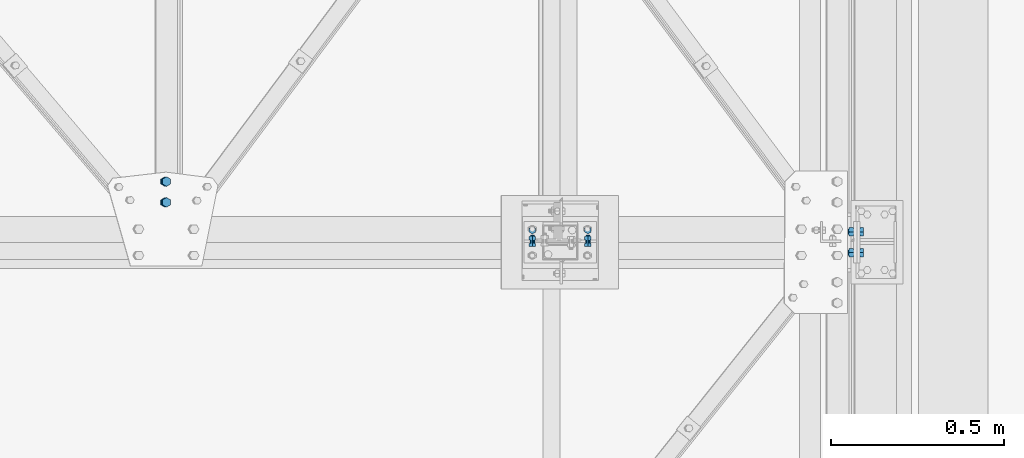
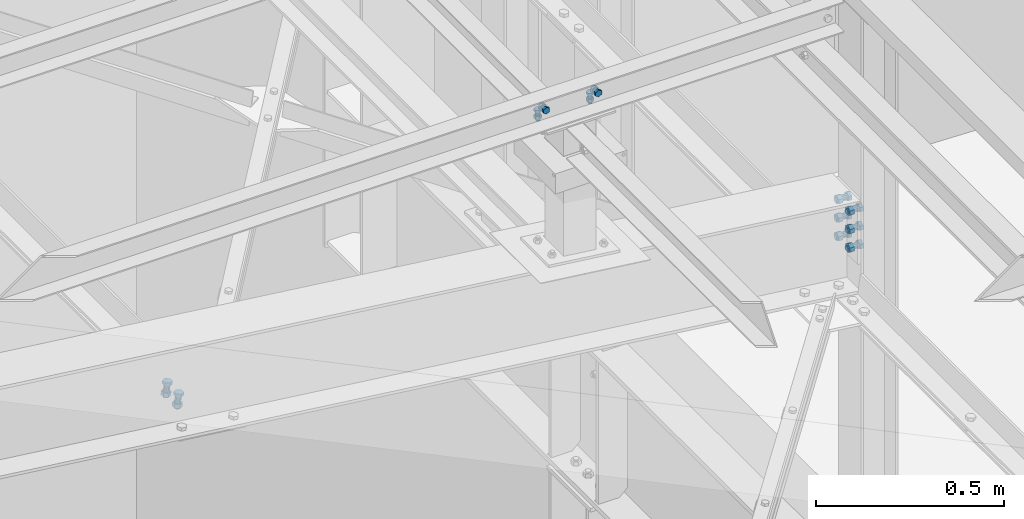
# One storey, part 381 of 3134: 4 mechanical fasteners, 3 elements without a shape of their own.
"""IFC2X3 building model written with IfcOpenShell, lengths in millimetres."""

from ifc_helpers import new_model, si_unit, frame, origin_with_axes, place, context, subcontext, project, spatial, faceted_brep, source, transform, mapped, material, type_object, element, aggregate, save


model = new_model("IFC2X3")

# Units and contexts
model_context = context("Model", 3, precision=1e-05, world=origin_with_axes())
body_context = subcontext(model_context, "Body", "Model", "MODEL_VIEW")
ifc_project = project(units=[si_unit("LENGTHUNIT", "METRE", prefix="MILLI"), si_unit("AREAUNIT", "SQUARE_METRE"), si_unit("VOLUMEUNIT", "CUBIC_METRE"), si_unit("MASSUNIT", "GRAM", prefix="KILO"), si_unit("TIMEUNIT", "SECOND"), si_unit("PLANEANGLEUNIT", "RADIAN"), si_unit("SOLIDANGLEUNIT", "STERADIAN"), si_unit("THERMODYNAMICTEMPERATUREUNIT", "DEGREE_CELSIUS"), si_unit("LUMINOUSINTENSITYUNIT", "LUMEN")], contexts=[model_context])

# Site, building, storey
site_placement = place(None, origin_with_axes())
site = spatial("IfcSite", under=ifc_project, at=site_placement, CompositionType="ELEMENT")
building_placement = place(site_placement, origin_with_axes())
building = spatial("IfcBuilding", under=site, at=building_placement, Name="Undefined", CompositionType="ELEMENT")
storey_placement = place(building_placement, origin_with_axes())
storey = spatial("IfcBuildingStorey", under=building, at=storey_placement, Name="Undefined", CompositionType="ELEMENT", Elevation=0.0)

# Assembly, mechanical fasteners
assembly_1_placement = place(storey_placement, origin_with_axes())
assembly_1 = element("IfcElementAssembly", 1, at=assembly_1_placement, inside=storey, AssemblyPlace="NOTDEFINED", PredefinedType="RIGID_FRAME")
ifc_material = material(Name="8.8")
mechanical_fastener_type = type_object("IfcMechanicalFastenerType", Name="Bolt assembly")
shared_shape_1 = source(origin_with_axes(), body_context, "Body", "Brep", [
    faceted_brep([(10.9696551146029, -14.0, 0.0), (5.48482755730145, -14.0, 9.5), (-5.48482755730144, -14.0, 9.5), (-10.9696551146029, -14.0, 1.34339530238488e-15), (-5.48482755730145, -14.0, -9.5), (5.48482755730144, -14.0, -9.50000000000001), (5.48482755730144, -6.0, -9.50000000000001), (-5.48482755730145, -6.0, -9.5), (-10.9696551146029, -6.0, 1.34339530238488e-15), (-5.48482755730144, -6.0, 9.5), (5.48482755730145, -6.0, 9.5), (10.9696551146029, -6.0, 0.0), (6.0, -6.0, 0.0), (5.19615242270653, -6.0, 3.00000000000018), (2.99999999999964, -6.0, 5.19615242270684), (-6.21801588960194e-13, -6.0, 6.0), (-3.00000000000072, -6.0, 5.19615242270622), (-5.19615242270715, -6.0, 2.9999999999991), (-6.0, -6.0, -1.24360317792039e-12), (-5.19615242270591, -6.0, -3.00000000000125), (-2.99999999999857, -6.0, -5.19615242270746), (1.85874342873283e-12, -6.0, -6.0), (3.00000000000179, -6.0, -5.1961524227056), (5.19615242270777, -6.0, -2.99999999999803), (5.19615242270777, 24.0, -2.99999999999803), (3.00000000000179, 24.0, -5.1961524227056), (1.85874342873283e-12, 24.0, -6.0), (-2.99999999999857, 24.0, -5.19615242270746), (-5.19615242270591, 24.0, -3.00000000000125), (-6.0, 24.0, -1.24360317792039e-12), (-5.19615242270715, 24.0, 2.9999999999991), (-3.00000000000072, 24.0, 5.19615242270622), (-6.21801588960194e-13, 24.0, 6.0), (2.99999999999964, 24.0, 5.19615242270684), (5.19615242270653, 24.0, 3.00000000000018), (6.0, 24.0, 0.0), (10.9696551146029, 6.00000000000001, 0.0), (5.48482755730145, 6.00000000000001, 9.5), (-5.48482755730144, 6.00000000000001, 9.5), (-10.9696551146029, 6.00000000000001, 1.34339530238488e-15), (-5.48482755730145, 6.00000000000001, -9.5), (5.48482755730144, 6.00000000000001, -9.50000000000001), (5.48482755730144, 16.0, -9.50000000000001), (-5.48482755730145, 16.0, -9.5), (-10.9696551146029, 16.0, 1.34339530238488e-15), (-5.48482755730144, 16.0, 9.5), (5.48482755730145, 16.0, 9.5), (10.9696551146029, 16.0, 0.0)], [[[0, 1, 2, 3, 4, 5]], [[6, 7, 8, 9, 10, 11]], [[0, 11, 10, 1]], [[1, 10, 9, 2]], [[2, 9, 8, 3]], [[3, 8, 7, 4]], [[4, 7, 6, 5]], [[5, 6, 11, 0]], [[12, 13, 14, 15, 16, 17, 18, 19, 20, 21, 22, 23]], [[24, 25, 26, 27, 28, 29, 30, 31, 32, 33, 34, 35]], [[12, 35, 34, 13]], [[13, 34, 33, 14]], [[14, 33, 32, 15]], [[15, 32, 31, 16]], [[16, 31, 30, 17]], [[17, 30, 29, 18]], [[18, 29, 28, 19]], [[19, 28, 27, 20]], [[20, 27, 26, 21]], [[21, 26, 25, 22]], [[22, 25, 24, 23]], [[23, 24, 35, 12]], [[36, 37, 38, 39, 40, 41]], [[42, 43, 44, 45, 46, 47]], [[36, 47, 46, 37]], [[37, 46, 45, 38]], [[38, 45, 44, 39]], [[39, 44, 43, 40]], [[40, 43, 42, 41]], [[41, 42, 47, 36]]]),
    faceted_brep([(7.0, -0.1, 0.0), (6.06217782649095, -0.1, 3.50000000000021), (3.49999999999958, -0.1, 6.06217782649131), (-7.25435187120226e-13, -0.1, 7.0), (-3.50000000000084, -0.1, 6.06217782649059), (-6.06217782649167, -0.1, 3.49999999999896), (-7.0, -0.1, -1.45087037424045e-12), (-6.06217782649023, -0.1, -3.50000000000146), (-3.49999999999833, -0.1, -6.06217782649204), (2.1685340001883e-12, -0.1, -7.0), (3.50000000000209, -0.1, -6.06217782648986), (6.0621778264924, -0.1, -3.4999999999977), (6.0621778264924, 6.00000000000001, -3.4999999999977), (3.50000000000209, 6.00000000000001, -6.06217782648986), (2.1685340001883e-12, 6.00000000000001, -7.0), (-3.49999999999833, 6.00000000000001, -6.06217782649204), (-6.06217782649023, 6.00000000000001, -3.50000000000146), (-7.0, 6.00000000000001, -1.45087037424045e-12), (-6.06217782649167, 6.00000000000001, 3.49999999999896), (-3.50000000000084, 6.00000000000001, 6.06217782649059), (-7.25435187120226e-13, 6.00000000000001, 7.0), (3.49999999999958, 6.00000000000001, 6.06217782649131), (6.06217782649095, 6.00000000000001, 3.50000000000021), (7.0, 6.00000000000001, 0.0), (7.0, -5.9, 0.0), (6.06217782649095, -5.9, 3.50000000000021), (3.49999999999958, -5.9, 6.06217782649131), (-7.25435187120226e-13, -5.9, 7.0), (-3.50000000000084, -5.9, 6.06217782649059), (-6.06217782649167, -5.9, 3.49999999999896), (-7.0, -5.9, -1.45087037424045e-12), (-6.06217782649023, -5.9, -3.50000000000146), (-3.49999999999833, -5.9, -6.06217782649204), (2.1685340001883e-12, -5.9, -7.0), (3.50000000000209, -5.9, -6.06217782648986), (6.0621778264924, -5.9, -3.4999999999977), (6.0621778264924, 0.0999999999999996, -3.4999999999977), (3.50000000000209, 0.0999999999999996, -6.06217782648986), (2.1685340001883e-12, 0.0999999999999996, -7.0), (-3.49999999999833, 0.0999999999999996, -6.06217782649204), (-6.06217782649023, 0.0999999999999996, -3.50000000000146), (-7.0, 0.0999999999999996, -1.45087037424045e-12), (-6.06217782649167, 0.0999999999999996, 3.49999999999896), (-3.50000000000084, 0.0999999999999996, 6.06217782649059), (-7.25435187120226e-13, 0.0999999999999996, 7.0), (3.49999999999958, 0.0999999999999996, 6.06217782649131), (6.06217782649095, 0.0999999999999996, 3.50000000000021), (7.0, 0.0999999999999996, 0.0)], [[[0, 1, 2, 3, 4, 5, 6, 7, 8, 9, 10, 11]], [[12, 13, 14, 15, 16, 17, 18, 19, 20, 21, 22, 23]], [[0, 23, 22, 1]], [[1, 22, 21, 2]], [[2, 21, 20, 3]], [[3, 20, 19, 4]], [[4, 19, 18, 5]], [[5, 18, 17, 6]], [[6, 17, 16, 7]], [[7, 16, 15, 8]], [[8, 15, 14, 9]], [[9, 14, 13, 10]], [[10, 13, 12, 11]], [[11, 12, 23, 0]], [[24, 25, 26, 27, 28, 29, 30, 31, 32, 33, 34, 35]], [[36, 37, 38, 39, 40, 41, 42, 43, 44, 45, 46, 47]], [[24, 47, 46, 25]], [[25, 46, 45, 26]], [[26, 45, 44, 27]], [[27, 44, 43, 28]], [[28, 43, 42, 29]], [[29, 42, 41, 30]], [[30, 41, 40, 31]], [[31, 40, 39, 32]], [[32, 39, 38, 33]], [[33, 38, 37, 34]], [[34, 37, 36, 35]], [[35, 36, 47, 24]]]),
])
mechanical_fastener_1_placement = place(assembly_1_placement, frame((70902.0, 24685.0, 5850.0), z_axis=(1.0, 0.0, 0.0), x_axis=(0.0, -1.0, 0.0)))
mechanical_fastener_1 = element("IfcMechanicalFastener", 2, at=mechanical_fastener_1_placement, type_object=mechanical_fastener_type, material=ifc_material, Name="Bolt assembly", NominalDiameter=12.0, NominalLength=30.0, context=body_context, shape_type="MappedRepresentation", body=[
    mapped(shared_shape_1, transform((0.0, -5.32963895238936e-10, -79.9999999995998))),
    mapped(shared_shape_1, transform((0.0, 5.3114490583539e-10, 79.9999999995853))),
])
shared_shape_2 = source(origin_with_axes(), body_context, "Body", "Brep", [
    faceted_brep([(10.9696551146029, -12.0, 0.0), (5.48482755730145, -12.0, 9.5), (-5.48482755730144, -12.0, 9.5), (-10.9696551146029, -12.0, 1.34339530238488e-15), (-5.48482755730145, -12.0, -9.5), (5.48482755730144, -12.0, -9.50000000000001), (5.48482755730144, -4.0, -9.50000000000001), (-5.48482755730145, -4.0, -9.5), (-10.9696551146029, -4.0, 1.34339530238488e-15), (-5.48482755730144, -4.0, 9.5), (5.48482755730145, -4.0, 9.5), (10.9696551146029, -4.0, 0.0), (6.0, -4.0, 0.0), (5.19615242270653, -4.0, 3.00000000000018), (2.99999999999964, -4.0, 5.19615242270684), (-6.21801588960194e-13, -4.0, 6.0), (-3.00000000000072, -4.0, 5.19615242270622), (-5.19615242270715, -4.0, 2.9999999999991), (-6.0, -4.0, -1.24360317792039e-12), (-5.19615242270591, -4.0, -3.00000000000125), (-2.99999999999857, -4.0, -5.19615242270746), (1.85874342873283e-12, -4.0, -6.0), (3.00000000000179, -4.0, -5.1961524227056), (5.19615242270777, -4.0, -2.99999999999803), (5.19615242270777, 21.0, -2.99999999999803), (3.00000000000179, 21.0, -5.1961524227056), (1.85874342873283e-12, 21.0, -6.0), (-2.99999999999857, 21.0, -5.19615242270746), (-5.19615242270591, 21.0, -3.00000000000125), (-6.0, 21.0, -1.24360317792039e-12), (-5.19615242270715, 21.0, 2.9999999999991), (-3.00000000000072, 21.0, 5.19615242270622), (-6.21801588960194e-13, 21.0, 6.0), (2.99999999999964, 21.0, 5.19615242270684), (5.19615242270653, 21.0, 3.00000000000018), (6.0, 21.0, 0.0), (10.9696551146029, 6.00000000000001, 0.0), (5.48482755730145, 6.00000000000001, 9.5), (-5.48482755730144, 6.00000000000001, 9.5), (-10.9696551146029, 6.00000000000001, 1.34339530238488e-15), (-5.48482755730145, 6.00000000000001, -9.5), (5.48482755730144, 6.00000000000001, -9.50000000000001), (5.48482755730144, 16.0, -9.50000000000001), (-5.48482755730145, 16.0, -9.5), (-10.9696551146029, 16.0, 1.34339530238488e-15), (-5.48482755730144, 16.0, 9.5), (5.48482755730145, 16.0, 9.5), (10.9696551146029, 16.0, 0.0)], [[[0, 1, 2, 3, 4, 5]], [[6, 7, 8, 9, 10, 11]], [[0, 11, 10, 1]], [[1, 10, 9, 2]], [[2, 9, 8, 3]], [[3, 8, 7, 4]], [[4, 7, 6, 5]], [[5, 6, 11, 0]], [[12, 13, 14, 15, 16, 17, 18, 19, 20, 21, 22, 23]], [[24, 25, 26, 27, 28, 29, 30, 31, 32, 33, 34, 35]], [[12, 35, 34, 13]], [[13, 34, 33, 14]], [[14, 33, 32, 15]], [[15, 32, 31, 16]], [[16, 31, 30, 17]], [[17, 30, 29, 18]], [[18, 29, 28, 19]], [[19, 28, 27, 20]], [[20, 27, 26, 21]], [[21, 26, 25, 22]], [[22, 25, 24, 23]], [[23, 24, 35, 12]], [[36, 37, 38, 39, 40, 41]], [[42, 43, 44, 45, 46, 47]], [[36, 47, 46, 37]], [[37, 46, 45, 38]], [[38, 45, 44, 39]], [[39, 44, 43, 40]], [[40, 43, 42, 41]], [[41, 42, 47, 36]]]),
    faceted_brep([(7.0, -3.9, 0.0), (6.06217782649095, -3.9, 3.50000000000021), (3.49999999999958, -3.9, 6.06217782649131), (-7.25435187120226e-13, -3.9, 7.0), (-3.50000000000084, -3.9, 6.06217782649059), (-6.06217782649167, -3.9, 3.49999999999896), (-7.0, -3.9, -1.45087037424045e-12), (-6.06217782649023, -3.9, -3.50000000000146), (-3.49999999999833, -3.9, -6.06217782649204), (2.1685340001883e-12, -3.9, -7.0), (3.50000000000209, -3.9, -6.06217782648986), (6.0621778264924, -3.9, -3.4999999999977), (6.0621778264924, 0.0999999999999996, -3.4999999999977), (3.50000000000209, 0.0999999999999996, -6.06217782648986), (2.1685340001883e-12, 0.0999999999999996, -7.0), (-3.49999999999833, 0.0999999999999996, -6.06217782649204), (-6.06217782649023, 0.0999999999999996, -3.50000000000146), (-7.0, 0.0999999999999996, -1.45087037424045e-12), (-6.06217782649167, 0.0999999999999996, 3.49999999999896), (-3.50000000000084, 0.0999999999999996, 6.06217782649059), (-7.25435187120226e-13, 0.0999999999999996, 7.0), (3.49999999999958, 0.0999999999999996, 6.06217782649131), (6.06217782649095, 0.0999999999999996, 3.50000000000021), (7.0, 0.0999999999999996, 0.0), (7.0, -0.1, 0.0), (6.06217782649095, -0.1, 3.50000000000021), (3.49999999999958, -0.1, 6.06217782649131), (-7.25435187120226e-13, -0.1, 7.0), (-3.50000000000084, -0.1, 6.06217782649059), (-6.06217782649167, -0.1, 3.49999999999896), (-7.0, -0.1, -1.45087037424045e-12), (-6.06217782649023, -0.1, -3.50000000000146), (-3.49999999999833, -0.1, -6.06217782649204), (2.1685340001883e-12, -0.1, -7.0), (3.50000000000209, -0.1, -6.06217782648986), (6.0621778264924, -0.1, -3.4999999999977), (6.0621778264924, 6.00000000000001, -3.4999999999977), (3.50000000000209, 6.00000000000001, -6.06217782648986), (2.1685340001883e-12, 6.00000000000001, -7.0), (-3.49999999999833, 6.00000000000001, -6.06217782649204), (-6.06217782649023, 6.00000000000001, -3.50000000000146), (-7.0, 6.00000000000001, -1.45087037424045e-12), (-6.06217782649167, 6.00000000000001, 3.49999999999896), (-3.50000000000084, 6.00000000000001, 6.06217782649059), (-7.25435187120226e-13, 6.00000000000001, 7.0), (3.49999999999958, 6.00000000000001, 6.06217782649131), (6.06217782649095, 6.00000000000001, 3.50000000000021), (7.0, 6.00000000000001, 0.0)], [[[0, 1, 2, 3, 4, 5, 6, 7, 8, 9, 10, 11]], [[12, 13, 14, 15, 16, 17, 18, 19, 20, 21, 22, 23]], [[0, 23, 22, 1]], [[1, 22, 21, 2]], [[2, 21, 20, 3]], [[3, 20, 19, 4]], [[4, 19, 18, 5]], [[5, 18, 17, 6]], [[6, 17, 16, 7]], [[7, 16, 15, 8]], [[8, 15, 14, 9]], [[9, 14, 13, 10]], [[10, 13, 12, 11]], [[11, 12, 23, 0]], [[24, 25, 26, 27, 28, 29, 30, 31, 32, 33, 34, 35]], [[36, 37, 38, 39, 40, 41, 42, 43, 44, 45, 46, 47]], [[24, 47, 46, 25]], [[25, 46, 45, 26]], [[26, 45, 44, 27]], [[27, 44, 43, 28]], [[28, 43, 42, 29]], [[29, 42, 41, 30]], [[30, 41, 40, 31]], [[31, 40, 39, 32]], [[32, 39, 38, 33]], [[33, 38, 37, 34]], [[34, 37, 36, 35]], [[35, 36, 47, 24]]]),
])
mechanical_fastener_2_placement = place(assembly_1_placement, frame((70902.0, 24650.0, 5885.0), z_axis=(1.0, 0.0, 0.0), x_axis=(0.0, 0.0, -1.0)))
mechanical_fastener_2 = element("IfcMechanicalFastener", 3, at=mechanical_fastener_2_placement, type_object=mechanical_fastener_type, material=ifc_material, Name="Bolt assembly", NominalDiameter=12.0, NominalLength=25.0, context=body_context, shape_type="MappedRepresentation", body=[
    mapped(shared_shape_2, transform((0.0, -5.32963895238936e-10, -79.9999999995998))),
    mapped(shared_shape_2, transform((0.0, 5.3114490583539e-10, 79.9999999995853))),
])
aggregate(assembly_1, [mechanical_fastener_2, mechanical_fastener_1])

# Assembly, mechanical fastener
assembly_2_placement = place(storey_placement, origin_with_axes())
assembly_2 = element("IfcElementAssembly", 4, at=assembly_2_placement, inside=storey, Name="HEA120", AssemblyPlace="NOTDEFINED", PredefinedType="RIGID_FRAME")
shared_shape_3 = source(origin_with_axes(), body_context, "Body", "Brep", [
    faceted_brep([(13.856406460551, -18.0, 0.0), (6.92820323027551, -18.0, 12.0), (-6.92820323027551, -18.0, 12.0), (-13.856406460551, -18.0, 1.69692038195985e-15), (-6.92820323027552, -18.0, -12.0), (6.9282032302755, -18.0, -12.0), (6.9282032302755, -7.99999766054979, -12.0), (-6.92820323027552, -7.99999766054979, -12.0), (-13.856406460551, -7.99999766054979, 1.69692038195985e-15), (-6.92820323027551, -7.99999766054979, 12.0), (6.92820323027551, -7.99999766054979, 12.0), (13.856406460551, -7.99999766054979, 0.0), (8.0, -8.0, 0.0), (6.92820323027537, -8.0, 4.00000000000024), (3.99999999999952, -8.0, 6.92820323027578), (-8.29068785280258e-13, -8.0, 8.0), (-4.00000000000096, -8.0, 6.92820323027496), (-6.9282032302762, -8.0, 3.99999999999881), (-8.0, -8.0, -1.65813757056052e-12), (-6.92820323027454, -8.0, -4.00000000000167), (-3.99999999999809, -8.0, -6.92820323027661), (2.47832457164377e-12, -8.0, -8.0), (4.00000000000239, -8.0, -6.92820323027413), (6.92820323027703, -8.0, -3.99999999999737), (6.92820323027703, 27.0, -3.99999999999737), (4.00000000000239, 27.0, -6.92820323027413), (2.47832457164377e-12, 27.0, -8.0), (-3.99999999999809, 27.0, -6.92820323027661), (-6.92820323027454, 27.0, -4.00000000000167), (-8.0, 27.0, -1.65813757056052e-12), (-6.9282032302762, 27.0, 3.99999999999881), (-4.00000000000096, 27.0, 6.92820323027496), (-8.29068785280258e-13, 27.0, 8.0), (3.99999999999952, 27.0, 6.92820323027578), (6.92820323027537, 27.0, 4.00000000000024), (8.0, 27.0, 0.0), (13.856406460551, 9.99999995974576, 0.0), (6.92820323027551, 9.99999995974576, 12.0), (-6.92820323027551, 9.99999995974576, 12.0), (-13.856406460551, 9.99999995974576, 1.69692038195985e-15), (-6.92820323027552, 9.99999995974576, -12.0), (6.9282032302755, 9.99999995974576, -12.0), (6.9282032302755, 22.9999913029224, -12.0), (-6.92820323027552, 22.9999913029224, -12.0), (-13.856406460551, 22.9999913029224, 1.69692038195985e-15), (-6.92820323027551, 22.9999913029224, 12.0), (6.92820323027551, 22.9999913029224, 12.0), (13.856406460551, 22.9999913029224, 0.0)], [[[0, 1, 2, 3, 4, 5]], [[6, 7, 8, 9, 10, 11]], [[0, 11, 10, 1]], [[1, 10, 9, 2]], [[2, 9, 8, 3]], [[3, 8, 7, 4]], [[4, 7, 6, 5]], [[5, 6, 11, 0]], [[12, 13, 14, 15, 16, 17, 18, 19, 20, 21, 22, 23]], [[24, 25, 26, 27, 28, 29, 30, 31, 32, 33, 34, 35]], [[12, 35, 34, 13]], [[13, 34, 33, 14]], [[14, 33, 32, 15]], [[15, 32, 31, 16]], [[16, 31, 30, 17]], [[17, 30, 29, 18]], [[18, 29, 28, 19]], [[19, 28, 27, 20]], [[20, 27, 26, 21]], [[21, 26, 25, 22]], [[22, 25, 24, 23]], [[23, 24, 35, 12]], [[36, 37, 38, 39, 40, 41]], [[42, 43, 44, 45, 46, 47]], [[36, 47, 46, 37]], [[37, 46, 45, 38]], [[38, 45, 44, 39]], [[39, 44, 43, 40]], [[40, 43, 42, 41]], [[41, 42, 47, 36]]]),
    faceted_brep([(9.0, -0.1, 0.0), (7.79422863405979, -0.1, 4.50000000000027), (4.49999999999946, -0.1, 7.79422863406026), (-9.3270238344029e-13, -0.1, 9.0), (-4.50000000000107, -0.1, 7.79422863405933), (-7.79422863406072, -0.1, 4.49999999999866), (-9.0, -0.1, -1.86540476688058e-12), (-7.79422863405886, -0.1, -4.50000000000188), (-4.49999999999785, -0.1, -7.79422863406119), (2.78811514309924e-12, -0.1, -9.0), (4.50000000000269, -0.1, -7.7942286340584), (7.79422863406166, -0.1, -4.49999999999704), (7.79422863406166, 9.99999995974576, -4.49999999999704), (4.50000000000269, 9.99999995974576, -7.7942286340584), (2.78811514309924e-12, 9.99999995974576, -9.0), (-4.49999999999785, 9.99999995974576, -7.79422863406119), (-7.79422863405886, 9.99999995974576, -4.50000000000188), (-9.0, 9.99999995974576, -1.86540476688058e-12), (-7.79422863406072, 9.99999995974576, 4.49999999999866), (-4.50000000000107, 9.99999995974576, 7.79422863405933), (-9.3270238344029e-13, 9.99999995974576, 9.0), (4.49999999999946, 9.99999995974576, 7.79422863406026), (7.79422863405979, 9.99999995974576, 4.50000000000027), (9.0, 9.99999995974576, 0.0), (9.0, -7.9, 0.0), (7.79422863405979, -7.9, 4.50000000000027), (4.49999999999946, -7.9, 7.79422863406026), (-9.3270238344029e-13, -7.9, 9.0), (-4.50000000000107, -7.9, 7.79422863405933), (-7.79422863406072, -7.9, 4.49999999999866), (-9.0, -7.9, -1.86540476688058e-12), (-7.79422863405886, -7.9, -4.50000000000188), (-4.49999999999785, -7.9, -7.79422863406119), (2.78811514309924e-12, -7.9, -9.0), (4.50000000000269, -7.9, -7.7942286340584), (7.79422863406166, -7.9, -4.49999999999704), (7.79422863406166, 0.100000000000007, -4.49999999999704), (4.50000000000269, 0.100000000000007, -7.7942286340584), (2.78811514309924e-12, 0.100000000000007, -9.0), (-4.49999999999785, 0.100000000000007, -7.79422863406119), (-7.79422863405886, 0.100000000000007, -4.50000000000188), (-9.0, 0.100000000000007, -1.86540476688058e-12), (-7.79422863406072, 0.100000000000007, 4.49999999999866), (-4.50000000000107, 0.100000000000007, 7.79422863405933), (-9.3270238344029e-13, 0.100000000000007, 9.0), (4.49999999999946, 0.100000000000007, 7.79422863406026), (7.79422863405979, 0.100000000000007, 4.50000000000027), (9.0, 0.100000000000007, 0.0)], [[[0, 1, 2, 3, 4, 5, 6, 7, 8, 9, 10, 11]], [[12, 13, 14, 15, 16, 17, 18, 19, 20, 21, 22, 23]], [[0, 23, 22, 1]], [[1, 22, 21, 2]], [[2, 21, 20, 3]], [[3, 20, 19, 4]], [[4, 19, 18, 5]], [[5, 18, 17, 6]], [[6, 17, 16, 7]], [[7, 16, 15, 8]], [[8, 15, 14, 9]], [[9, 14, 13, 10]], [[10, 13, 12, 11]], [[11, 12, 23, 0]], [[24, 25, 26, 27, 28, 29, 30, 31, 32, 33, 34, 35]], [[36, 37, 38, 39, 40, 41, 42, 43, 44, 45, 46, 47]], [[24, 47, 46, 25]], [[25, 46, 45, 26]], [[26, 45, 44, 27]], [[27, 44, 43, 28]], [[28, 43, 42, 29]], [[29, 42, 41, 30]], [[30, 41, 40, 31]], [[31, 40, 39, 32]], [[32, 39, 38, 33]], [[33, 38, 37, 34]], [[34, 37, 36, 35]], [[35, 36, 47, 24]]]),
])
mechanical_fastener_3_placement = place(assembly_2_placement, frame((71758.0000000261, 24650.0, 5251.2505303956), z_axis=(0.0, 1.0, 0.0), x_axis=(0.0, 0.0, -1.0)))
mechanical_fastener_3 = element("IfcMechanicalFastener", 5, at=mechanical_fastener_3_placement, type_object=mechanical_fastener_type, material=ifc_material, Name="Bolt assembly", NominalDiameter=16.0, NominalLength=35.0, context=body_context, shape_type="MappedRepresentation", body=[
    mapped(shared_shape_3, transform((0.0, 4.54747350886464e-13, -30.0000000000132))),
    mapped(shared_shape_3, transform((60.0, 0.0, -30.0))),
    mapped(shared_shape_3, transform((120.0, 0.0, -30.0))),
    mapped(shared_shape_3, transform((0.0, 4.54747350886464e-13, 30.0000000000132))),
    mapped(shared_shape_3, transform((60.0, 0.0, 30.0))),
    mapped(shared_shape_3, transform((120.0, 0.0, 30.0))),
])
aggregate(assembly_2, [mechanical_fastener_3])

assembly_3_placement = place(storey_placement, origin_with_axes())
assembly_3 = element("IfcElementAssembly", 6, at=assembly_3_placement, inside=storey, AssemblyPlace="NOTDEFINED", PredefinedType="RIGID_FRAME")
shared_shape_4 = source(origin_with_axes(), body_context, "Body", "Brep", [
    faceted_brep([(13.856406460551, -20.9950087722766, 0.0), (6.92820323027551, -20.9950087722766, 12.0), (-6.92820323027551, -20.9950087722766, 12.0), (-13.856406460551, -20.9950087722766, 1.69692038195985e-15), (-6.92820323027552, -20.9950087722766, -12.0), (6.9282032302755, -20.9950087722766, -12.0), (6.9282032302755, -10.9950087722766, -12.0), (-6.92820323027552, -10.9950087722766, -12.0), (-13.856406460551, -10.9950087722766, 1.69692038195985e-15), (-6.92820323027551, -10.9950087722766, 12.0), (6.92820323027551, -10.9950087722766, 12.0), (13.856406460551, -10.9950087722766, 0.0), (8.0, -10.9950087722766, 0.0), (6.92820323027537, -10.9950087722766, 4.00000000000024), (3.99999999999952, -10.9950087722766, 6.92820323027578), (-8.29068785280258e-13, -10.9950087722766, 8.0), (-4.00000000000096, -10.9950087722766, 6.92820323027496), (-6.9282032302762, -10.9950087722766, 3.99999999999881), (-8.0, -10.9950087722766, -1.65813757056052e-12), (-6.92820323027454, -10.9950087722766, -4.00000000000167), (-3.99999999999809, -10.9950087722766, -6.92820323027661), (2.47832457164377e-12, -10.9950087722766, -8.0), (4.00000000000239, -10.9950087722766, -6.92820323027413), (6.92820323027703, -10.9950087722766, -3.99999999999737), (6.92820323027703, 29.0049912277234, -3.99999999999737), (4.00000000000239, 29.0049912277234, -6.92820323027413), (2.47832457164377e-12, 29.0049912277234, -8.0), (-3.99999999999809, 29.0049912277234, -6.92820323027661), (-6.92820323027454, 29.0049912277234, -4.00000000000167), (-8.0, 29.0049912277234, -1.65813757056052e-12), (-6.9282032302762, 29.0049912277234, 3.99999999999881), (-4.00000000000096, 29.0049912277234, 6.92820323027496), (-8.29068785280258e-13, 29.0049912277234, 8.0), (3.99999999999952, 29.0049912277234, 6.92820323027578), (6.92820323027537, 29.0049912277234, 4.00000000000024), (8.0, 29.0049912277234, 0.0), (13.856406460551, 11.0049912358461, 0.0), (6.92820323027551, 11.0049912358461, 12.0), (-6.92820323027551, 11.0049912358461, 12.0), (-13.856406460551, 11.0049912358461, 1.69692038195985e-15), (-6.92820323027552, 11.0049912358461, -12.0), (6.9282032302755, 11.0049912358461, -12.0), (6.9282032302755, 24.0049912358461, -12.0), (-6.92820323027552, 24.0049912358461, -12.0), (-13.856406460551, 24.0049912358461, 1.69692038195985e-15), (-6.92820323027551, 24.0049912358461, 12.0), (6.92820323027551, 24.0049912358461, 12.0), (13.856406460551, 24.0049912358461, 0.0)], [[[0, 1, 2, 3, 4, 5]], [[6, 7, 8, 9, 10, 11]], [[0, 11, 10, 1]], [[1, 10, 9, 2]], [[2, 9, 8, 3]], [[3, 8, 7, 4]], [[4, 7, 6, 5]], [[5, 6, 11, 0]], [[12, 13, 14, 15, 16, 17, 18, 19, 20, 21, 22, 23]], [[24, 25, 26, 27, 28, 29, 30, 31, 32, 33, 34, 35]], [[12, 35, 34, 13]], [[13, 34, 33, 14]], [[14, 33, 32, 15]], [[15, 32, 31, 16]], [[16, 31, 30, 17]], [[17, 30, 29, 18]], [[18, 29, 28, 19]], [[19, 28, 27, 20]], [[20, 27, 26, 21]], [[21, 26, 25, 22]], [[22, 25, 24, 23]], [[23, 24, 35, 12]], [[36, 37, 38, 39, 40, 41]], [[42, 43, 44, 45, 46, 47]], [[36, 47, 46, 37]], [[37, 46, 45, 38]], [[38, 45, 44, 39]], [[39, 44, 43, 40]], [[40, 43, 42, 41]], [[41, 42, 47, 36]]]),
    faceted_brep([(9.0, -10.8950087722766, 0.0), (7.79422863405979, -10.8950087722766, 4.50000000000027), (4.49999999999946, -10.8950087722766, 7.79422863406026), (-9.3270238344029e-13, -10.8950087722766, 9.0), (-4.50000000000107, -10.8950087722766, 7.79422863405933), (-7.79422863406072, -10.8950087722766, 4.49999999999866), (-9.0, -10.8950087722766, -1.86540476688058e-12), (-7.79422863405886, -10.8950087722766, -4.50000000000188), (-4.49999999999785, -10.8950087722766, -7.79422863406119), (2.78811514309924e-12, -10.8950087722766, -9.0), (4.50000000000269, -10.8950087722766, -7.7942286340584), (7.79422863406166, -10.8950087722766, -4.49999999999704), (7.79422863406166, -3.89500877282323, -4.49999999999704), (4.50000000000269, -3.89500877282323, -7.7942286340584), (2.78811514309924e-12, -3.89500877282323, -9.0), (-4.49999999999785, -3.89500877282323, -7.79422863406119), (-7.79422863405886, -3.89500877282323, -4.50000000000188), (-9.0, -3.89500877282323, -1.86540476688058e-12), (-7.79422863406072, -3.89500877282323, 4.49999999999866), (-4.50000000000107, -3.89500877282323, 7.79422863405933), (-9.3270238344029e-13, -3.89500877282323, 9.0), (4.49999999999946, -3.89500877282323, 7.79422863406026), (7.79422863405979, -3.89500877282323, 4.50000000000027), (9.0, -3.89500877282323, 0.0), (9.0, 3.90499123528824, 0.0), (7.79422863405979, 3.90499123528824, 4.50000000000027), (4.49999999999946, 3.90499123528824, 7.79422863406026), (-9.3270238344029e-13, 3.90499123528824, 9.0), (-4.50000000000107, 3.90499123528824, 7.79422863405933), (-7.79422863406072, 3.90499123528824, 4.49999999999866), (-9.0, 3.90499123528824, -1.86540476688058e-12), (-7.79422863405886, 3.90499123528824, -4.50000000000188), (-4.49999999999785, 3.90499123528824, -7.79422863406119), (2.78811514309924e-12, 3.90499123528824, -9.0), (4.50000000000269, 3.90499123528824, -7.7942286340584), (7.79422863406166, 3.90499123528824, -4.49999999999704), (7.79422863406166, 11.0049912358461, -4.49999999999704), (4.50000000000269, 11.0049912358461, -7.7942286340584), (2.78811514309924e-12, 11.0049912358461, -9.0), (-4.49999999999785, 11.0049912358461, -7.79422863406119), (-7.79422863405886, 11.0049912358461, -4.50000000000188), (-9.0, 11.0049912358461, -1.86540476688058e-12), (-7.79422863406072, 11.0049912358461, 4.49999999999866), (-4.50000000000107, 11.0049912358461, 7.79422863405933), (-9.3270238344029e-13, 11.0049912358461, 9.0), (4.49999999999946, 11.0049912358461, 7.79422863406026), (7.79422863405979, 11.0049912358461, 4.50000000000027), (9.0, 11.0049912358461, 0.0), (9.0, -3.99999624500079, 0.0), (7.79422863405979, -3.99999624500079, 4.50000000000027), (4.49999999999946, -3.99999624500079, 7.79422863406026), (-9.3270238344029e-13, -3.99999624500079, 9.0), (-4.50000000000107, -3.99999624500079, 7.79422863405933), (-7.79422863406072, -3.99999624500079, 4.49999999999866), (-9.0, -3.99999624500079, -1.86540476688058e-12), (-7.79422863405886, -3.99999624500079, -4.50000000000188), (-4.49999999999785, -3.99999624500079, -7.79422863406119), (2.78811514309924e-12, -3.99999624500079, -9.0), (4.50000000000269, -3.99999624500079, -7.7942286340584), (7.79422863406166, -3.99999624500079, -4.49999999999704), (7.79422863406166, 4.00000375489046, -4.49999999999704), (4.50000000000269, 4.00000375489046, -7.7942286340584), (2.78811514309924e-12, 4.00000375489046, -9.0), (-4.49999999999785, 4.00000375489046, -7.79422863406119), (-7.79422863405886, 4.00000375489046, -4.50000000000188), (-9.0, 4.00000375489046, -1.86540476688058e-12), (-7.79422863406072, 4.00000375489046, 4.49999999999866), (-4.50000000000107, 4.00000375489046, 7.79422863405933), (-9.3270238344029e-13, 4.00000375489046, 9.0), (4.49999999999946, 4.00000375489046, 7.79422863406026), (7.79422863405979, 4.00000375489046, 4.50000000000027), (9.0, 4.00000375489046, 0.0)], [[[0, 1, 2, 3, 4, 5, 6, 7, 8, 9, 10, 11]], [[12, 13, 14, 15, 16, 17, 18, 19, 20, 21, 22, 23]], [[0, 23, 22, 1]], [[1, 22, 21, 2]], [[2, 21, 20, 3]], [[3, 20, 19, 4]], [[4, 19, 18, 5]], [[5, 18, 17, 6]], [[6, 17, 16, 7]], [[7, 16, 15, 8]], [[8, 15, 14, 9]], [[9, 14, 13, 10]], [[10, 13, 12, 11]], [[11, 12, 23, 0]], [[24, 25, 26, 27, 28, 29, 30, 31, 32, 33, 34, 35]], [[36, 37, 38, 39, 40, 41, 42, 43, 44, 45, 46, 47]], [[24, 47, 46, 25]], [[25, 46, 45, 26]], [[26, 45, 44, 27]], [[27, 44, 43, 28]], [[28, 43, 42, 29]], [[29, 42, 41, 30]], [[30, 41, 40, 31]], [[31, 40, 39, 32]], [[32, 39, 38, 33]], [[33, 38, 37, 34]], [[34, 37, 36, 35]], [[35, 36, 47, 24]], [[48, 49, 50, 51, 52, 53, 54, 55, 56, 57, 58, 59]], [[60, 61, 62, 63, 64, 65, 66, 67, 68, 69, 70, 71]], [[48, 71, 70, 49]], [[49, 70, 69, 50]], [[50, 69, 68, 51]], [[51, 68, 67, 52]], [[52, 67, 66, 53]], [[53, 66, 65, 54]], [[54, 65, 64, 55]], [[55, 64, 63, 56]], [[56, 63, 62, 57]], [[57, 62, 61, 58]], [[58, 61, 60, 59]], [[59, 60, 71, 48]]]),
])
mechanical_fastener_4_placement = place(assembly_3_placement, frame((69764.9976775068, 24825.0000000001, 5245.22032761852), z_axis=(0.992623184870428, 0.0, -0.121240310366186), x_axis=(0.0, -1.0, 0.0)))
mechanical_fastener_4 = element("IfcMechanicalFastener", 7, at=mechanical_fastener_4_placement, type_object=mechanical_fastener_type, material=ifc_material, Name="Bolt assembly", NominalDiameter=16.0, NominalLength=40.0, context=body_context, shape_type="MappedRepresentation", body=[
    mapped(shared_shape_4, transform((0.0, 0.0, 0.0))),
    mapped(shared_shape_4, transform((59.9999999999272, 0.0, 5.40239852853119e-10))),
])
aggregate(assembly_3, [mechanical_fastener_4])

save(model, "model.ifc")
